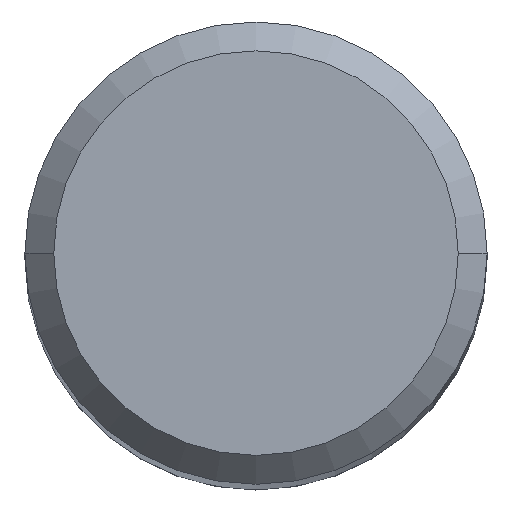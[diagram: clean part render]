
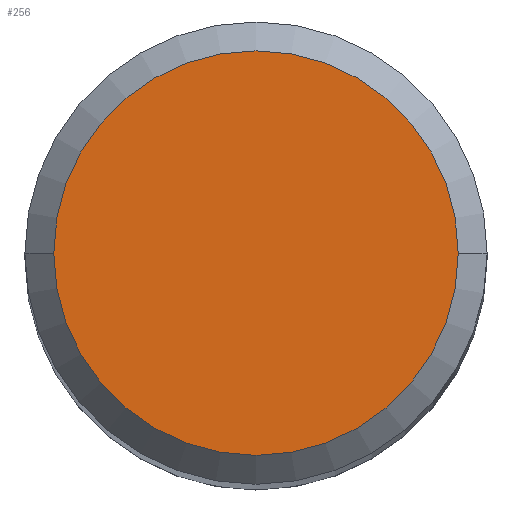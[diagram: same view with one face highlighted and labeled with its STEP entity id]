
A CAD part, top view. The second image highlights one B-rep face of the part: STEP entity #256.
In plain terms, the highlighted planar face has unit normal (0, 0, 1).
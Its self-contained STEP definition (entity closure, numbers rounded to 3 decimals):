
#16 = FACE_OUTER_BOUND ( 'NONE', #298, .T. ) ;
#240 = CARTESIAN_POINT ( 'NONE',  ( 0., 0., 115. ) ) ;
#256 = ADVANCED_FACE ( 'NONE', ( #16 ), #705, .T. ) ;
#259 = DIRECTION ( 'NONE',  ( 1., 0., 0. ) ) ;
#261 = EDGE_CURVE ( 'NONE', #421, #309, #702, .T. ) ;
#287 = CARTESIAN_POINT ( 'NONE',  ( 7., 0., 115. ) ) ;
#288 = CARTESIAN_POINT ( 'NONE',  ( -7., 0., 115. ) ) ;
#298 = EDGE_LOOP ( 'NONE', ( #612, #695 ) ) ;
#304 = DIRECTION ( 'NONE',  ( 0., 0., 1. ) ) ;
#309 = VERTEX_POINT ( 'NONE', #287 ) ;
#332 = AXIS2_PLACEMENT_3D ( 'NONE', #582, #573, #527 ) ;
#340 = DIRECTION ( 'NONE',  ( 0., 0., 1. ) ) ;
#368 = AXIS2_PLACEMENT_3D ( 'NONE', #640, #340, #587 ) ;
#421 = VERTEX_POINT ( 'NONE', #288 ) ;
#453 = EDGE_CURVE ( 'NONE', #309, #421, #697, .T. ) ;
#463 = AXIS2_PLACEMENT_3D ( 'NONE', #240, #304, #259 ) ;
#527 = DIRECTION ( 'NONE',  ( 1., 0., 0. ) ) ;
#573 = DIRECTION ( 'NONE',  ( 0., 0., 1. ) ) ;
#582 = CARTESIAN_POINT ( 'NONE',  ( 0., 0., 115. ) ) ;
#587 = DIRECTION ( 'NONE',  ( 1., 0., 0. ) ) ;
#612 = ORIENTED_EDGE ( 'NONE', *, *, #261, .T. ) ;
#640 = CARTESIAN_POINT ( 'NONE',  ( 0., 0., 115. ) ) ;
#695 = ORIENTED_EDGE ( 'NONE', *, *, #453, .T. ) ;
#697 = CIRCLE ( 'NONE', #463, 7. ) ;
#702 = CIRCLE ( 'NONE', #332, 7. ) ;
#705 = PLANE ( 'NONE',  #368 ) ;
